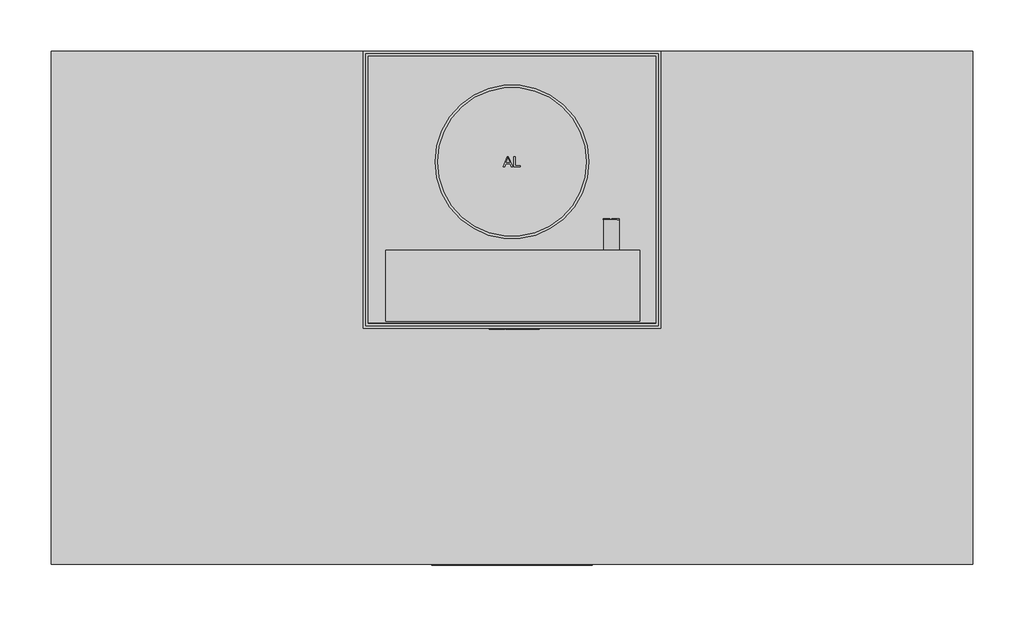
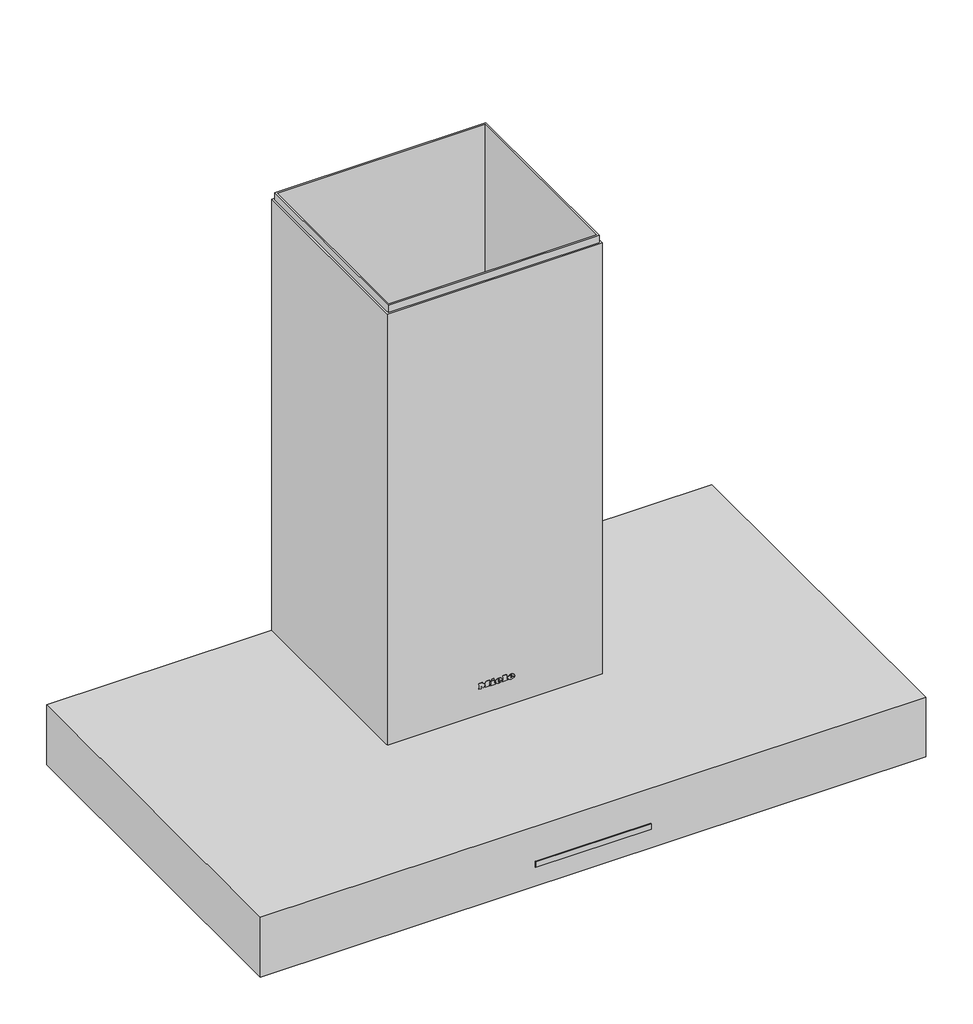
# Not in any storey: 1 proxy.
"""IFC4 building model written with IfcOpenShell, lengths in millimetres."""

from ifc_helpers import new_model, si_unit, origin, place, context, project, spatial, transform, mapped, element, save
from components import specialty_equipment_04cf12e1

model = new_model("IFC4")

# Units and contexts
model_context = context("Model", 3, world=origin())
ifc_project = project(units=[si_unit("LENGTHUNIT", "METRE", prefix="MILLI")], contexts=[model_context])

# Site, building
site = spatial("IfcSite", under=ifc_project)
building = spatial("IfcBuilding", under=site)

# Proxy
placement = place(None, origin())
specialty_equipment_shape = specialty_equipment_04cf12e1(model_context)
element("IfcBuildingElementProxy", 1, Name="10928070_B_DA6698W_BRWS : 28669830_B_10928070_DA6698W_BRWS", ObjectType="10928070_B_DA6698W_BRWS : 28669830_B_10928070_DA6698W_BRWS", at=placement, inside=building, context=model_context, shape_type="MappedRepresentation", body=[
    mapped(specialty_equipment_shape, transform((0.0, 0.0, 0.0), x_axis=(1.0, 0.0, 0.0), y_axis=(0.0, 1.0, 0.0), z_axis=(0.0, 0.0, 1.0))),
])

save(model, "model.ifc")
